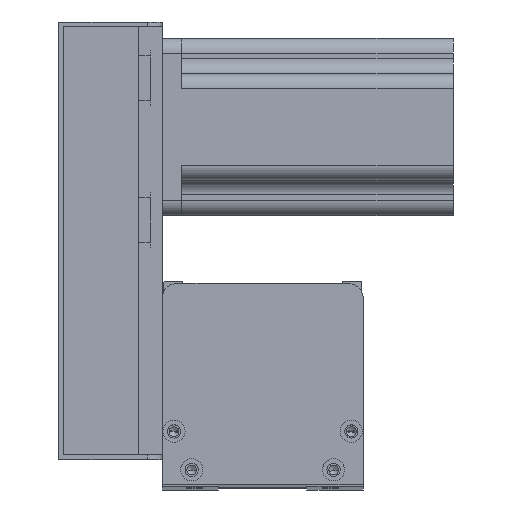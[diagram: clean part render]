
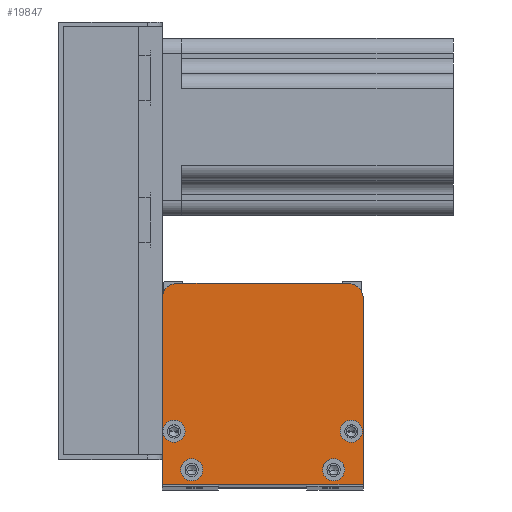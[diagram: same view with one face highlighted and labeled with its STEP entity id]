
A CAD part, top view. The second image highlights one B-rep face of the part: STEP entity #19847.
In plain terms, the highlighted planar face has unit normal (0, 0, 1) as drawn and (0, 0, -1) by its records, which use the part's own axes.
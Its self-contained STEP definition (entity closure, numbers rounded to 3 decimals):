
#62 = ORIENTED_EDGE ( 'NONE', *, *, #3388, .F. ) ;
#208 = ORIENTED_EDGE ( 'NONE', *, *, #15331, .F. ) ;
#217 = CIRCLE ( 'NONE', #10850, 3.75 ) ;
#410 = CARTESIAN_POINT ( 'NONE',  ( 0., 0., 0. ) ) ;
#429 = DIRECTION ( 'NONE',  ( 0., 0., -1. ) ) ;
#800 = VERTEX_POINT ( 'NONE', #21636 ) ;
#833 = EDGE_CURVE ( 'NONE', #24215, #12005, #1131, .T. ) ;
#1131 = CIRCLE ( 'NONE', #9570, 3.75 ) ;
#1440 = DIRECTION ( 'NONE',  ( -1., 0., 0. ) ) ;
#2325 = FACE_BOUND ( 'NONE', #18283, .T. ) ;
#2598 = EDGE_CURVE ( 'NONE', #26255, #5793, #27254, .T. ) ;
#2650 = EDGE_LOOP ( 'NONE', ( #16448, #6265 ) ) ;
#2705 = DIRECTION ( 'NONE',  ( -1., 0., 0. ) ) ;
#2707 = ORIENTED_EDGE ( 'NONE', *, *, #9697, .F. ) ;
#2963 = EDGE_LOOP ( 'NONE', ( #28408, #11183, #21049, #4540, #2707, #11327 ) ) ;
#3388 = EDGE_CURVE ( 'NONE', #24905, #13177, #28412, .T. ) ;
#3604 = AXIS2_PLACEMENT_3D ( 'NONE', #11593, #20509, #9555 ) ;
#3747 = CIRCLE ( 'NONE', #19323, 3.75 ) ;
#3903 = LINE ( 'NONE', #12443, #26714 ) ;
#3976 = CARTESIAN_POINT ( 'NONE',  ( 68., 0., 0. ) ) ;
#3993 = CARTESIAN_POINT ( 'NONE',  ( 58., 5., 0. ) ) ;
#4044 = FACE_OUTER_BOUND ( 'NONE', #2963, .T. ) ;
#4540 = ORIENTED_EDGE ( 'NONE', *, *, #15445, .T. ) ;
#4743 = FACE_BOUND ( 'NONE', #2650, .T. ) ;
#4879 = CARTESIAN_POINT ( 'NONE',  ( 5., 68., 0. ) ) ;
#5124 = VERTEX_POINT ( 'NONE', #17245 ) ;
#5569 = AXIS2_PLACEMENT_3D ( 'NONE', #11947, #16199, #16301 ) ;
#5732 = AXIS2_PLACEMENT_3D ( 'NONE', #22944, #25399, #16731 ) ;
#5793 = VERTEX_POINT ( 'NONE', #5836 ) ;
#5836 = CARTESIAN_POINT ( 'NONE',  ( 7.75, 18., 0. ) ) ;
#6265 = ORIENTED_EDGE ( 'NONE', *, *, #833, .F. ) ;
#6345 = CARTESIAN_POINT ( 'NONE',  ( 0.25, 18., 0. ) ) ;
#6387 = CARTESIAN_POINT ( 'NONE',  ( 68., 0., 0. ) ) ;
#6500 = DIRECTION ( 'NONE',  ( 0., -1., 0. ) ) ;
#7870 = AXIS2_PLACEMENT_3D ( 'NONE', #410, #17801, #26961 ) ;
#8396 = DIRECTION ( 'NONE',  ( 1., 0., 0. ) ) ;
#8713 = AXIS2_PLACEMENT_3D ( 'NONE', #3993, #23905, #19256 ) ;
#9555 = DIRECTION ( 'NONE',  ( 1., 0., 0. ) ) ;
#9570 = AXIS2_PLACEMENT_3D ( 'NONE', #28108, #17185, #12642 ) ;
#9695 = EDGE_CURVE ( 'NONE', #16384, #10270, #3903, .T. ) ;
#9697 = EDGE_CURVE ( 'NONE', #10635, #800, #16334, .T. ) ;
#9919 = EDGE_LOOP ( 'NONE', ( #12850, #22489 ) ) ;
#9930 = DIRECTION ( 'NONE',  ( 0., 0., -1. ) ) ;
#10104 = DIRECTION ( 'NONE',  ( -1., 0., 0. ) ) ;
#10254 = FACE_BOUND ( 'NONE', #9919, .T. ) ;
#10270 = VERTEX_POINT ( 'NONE', #4879 ) ;
#10440 = CARTESIAN_POINT ( 'NONE',  ( 13.75, 5., 0. ) ) ;
#10635 = VERTEX_POINT ( 'NONE', #3976 ) ;
#10850 = AXIS2_PLACEMENT_3D ( 'NONE', #23295, #9930, #27632 ) ;
#11183 = ORIENTED_EDGE ( 'NONE', *, *, #19413, .T. ) ;
#11221 = DIRECTION ( 'NONE',  ( 0., 0., -1. ) ) ;
#11327 = ORIENTED_EDGE ( 'NONE', *, *, #21308, .F. ) ;
#11593 = CARTESIAN_POINT ( 'NONE',  ( 5., 63., 0. ) ) ;
#11947 = CARTESIAN_POINT ( 'NONE',  ( 58., 5., 0. ) ) ;
#12005 = VERTEX_POINT ( 'NONE', #27448 ) ;
#12443 = CARTESIAN_POINT ( 'NONE',  ( 68., 68., 0. ) ) ;
#12642 = DIRECTION ( 'NONE',  ( -1., 0., 0. ) ) ;
#12844 = DIRECTION ( 'NONE',  ( 0., 0., -1. ) ) ;
#12850 = ORIENTED_EDGE ( 'NONE', *, *, #14280, .F. ) ;
#13089 = CARTESIAN_POINT ( 'NONE',  ( 61.75, 5., 0. ) ) ;
#13177 = VERTEX_POINT ( 'NONE', #14249 ) ;
#13578 = VECTOR ( 'NONE', #6500, 1000. ) ;
#13637 = PLANE ( 'NONE',  #7870 ) ;
#13892 = LINE ( 'NONE', #19436, #13578 ) ;
#14249 = CARTESIAN_POINT ( 'NONE',  ( 67.75, 18., 0. ) ) ;
#14280 = EDGE_CURVE ( 'NONE', #5124, #20771, #23987, .T. ) ;
#14332 = LINE ( 'NONE', #6387, #23327 ) ;
#14862 = ORIENTED_EDGE ( 'NONE', *, *, #20047, .F. ) ;
#15192 = EDGE_CURVE ( 'NONE', #20771, #5124, #25985, .T. ) ;
#15331 = EDGE_CURVE ( 'NONE', #5793, #26255, #19059, .T. ) ;
#15438 = CARTESIAN_POINT ( 'NONE',  ( 60.25, 18., 0. ) ) ;
#15445 = EDGE_CURVE ( 'NONE', #16384, #800, #28423, .T. ) ;
#15889 = DIRECTION ( 'NONE',  ( -1., 0., 0. ) ) ;
#15948 = CARTESIAN_POINT ( 'NONE',  ( 4., 18., 0. ) ) ;
#16199 = DIRECTION ( 'NONE',  ( 0., 0., -1. ) ) ;
#16255 = AXIS2_PLACEMENT_3D ( 'NONE', #15948, #11221, #2705 ) ;
#16301 = DIRECTION ( 'NONE',  ( -1., 0., 0. ) ) ;
#16334 = LINE ( 'NONE', #23370, #17368 ) ;
#16384 = VERTEX_POINT ( 'NONE', #23170 ) ;
#16448 = ORIENTED_EDGE ( 'NONE', *, *, #17863, .F. ) ;
#16731 = DIRECTION ( 'NONE',  ( -1., 0., 0. ) ) ;
#16879 = DIRECTION ( 'NONE',  ( 0., 1., 0. ) ) ;
#17185 = DIRECTION ( 'NONE',  ( 0., 0., -1. ) ) ;
#17233 = VERTEX_POINT ( 'NONE', #17943 ) ;
#17245 = CARTESIAN_POINT ( 'NONE',  ( 54.25, 5., 0. ) ) ;
#17368 = VECTOR ( 'NONE', #16879, 1000. ) ;
#17379 = CARTESIAN_POINT ( 'NONE',  ( 63., 63., 0. ) ) ;
#17617 = EDGE_LOOP ( 'NONE', ( #18743, #208 ) ) ;
#17801 = DIRECTION ( 'NONE',  ( 0., 0., 1. ) ) ;
#17863 = EDGE_CURVE ( 'NONE', #12005, #24215, #3747, .T. ) ;
#17943 = CARTESIAN_POINT ( 'NONE',  ( 0., 0., 0. ) ) ;
#18283 = EDGE_LOOP ( 'NONE', ( #62, #14862 ) ) ;
#18440 = VERTEX_POINT ( 'NONE', #18590 ) ;
#18590 = CARTESIAN_POINT ( 'NONE',  ( 0., 63., 0. ) ) ;
#18743 = ORIENTED_EDGE ( 'NONE', *, *, #2598, .F. ) ;
#19059 = CIRCLE ( 'NONE', #23902, 3.75 ) ;
#19102 = DIRECTION ( 'NONE',  ( 0., 0., -1. ) ) ;
#19256 = DIRECTION ( 'NONE',  ( -1., 0., 0. ) ) ;
#19323 = AXIS2_PLACEMENT_3D ( 'NONE', #26989, #429, #15889 ) ;
#19413 = EDGE_CURVE ( 'NONE', #18440, #10270, #19937, .T. ) ;
#19436 = CARTESIAN_POINT ( 'NONE',  ( 0., 0., 0. ) ) ;
#19847 = ADVANCED_FACE ( 'NONE', ( #2325, #20291, #4743, #10254, #4044 ), #13637, .F. ) ;
#19937 = CIRCLE ( 'NONE', #3604, 5. ) ;
#20047 = EDGE_CURVE ( 'NONE', #13177, #24905, #217, .T. ) ;
#20291 = FACE_BOUND ( 'NONE', #17617, .T. ) ;
#20509 = DIRECTION ( 'NONE',  ( 0., 0., -1. ) ) ;
#20771 = VERTEX_POINT ( 'NONE', #13089 ) ;
#21049 = ORIENTED_EDGE ( 'NONE', *, *, #9695, .F. ) ;
#21154 = AXIS2_PLACEMENT_3D ( 'NONE', #17379, #12844, #23657 ) ;
#21308 = EDGE_CURVE ( 'NONE', #17233, #10635, #14332, .T. ) ;
#21636 = CARTESIAN_POINT ( 'NONE',  ( 68., 63., 0. ) ) ;
#22489 = ORIENTED_EDGE ( 'NONE', *, *, #15192, .F. ) ;
#22944 = CARTESIAN_POINT ( 'NONE',  ( 64., 18., 0. ) ) ;
#23170 = CARTESIAN_POINT ( 'NONE',  ( 63., 68., 0. ) ) ;
#23221 = EDGE_CURVE ( 'NONE', #18440, #17233, #13892, .T. ) ;
#23295 = CARTESIAN_POINT ( 'NONE',  ( 64., 18., 0. ) ) ;
#23327 = VECTOR ( 'NONE', #8396, 1000. ) ;
#23370 = CARTESIAN_POINT ( 'NONE',  ( 68., 0., 0. ) ) ;
#23657 = DIRECTION ( 'NONE',  ( 1., 0., 0. ) ) ;
#23902 = AXIS2_PLACEMENT_3D ( 'NONE', #27995, #19102, #10104 ) ;
#23905 = DIRECTION ( 'NONE',  ( 0., 0., -1. ) ) ;
#23987 = CIRCLE ( 'NONE', #8713, 3.75 ) ;
#24215 = VERTEX_POINT ( 'NONE', #10440 ) ;
#24905 = VERTEX_POINT ( 'NONE', #15438 ) ;
#25399 = DIRECTION ( 'NONE',  ( 0., 0., -1. ) ) ;
#25985 = CIRCLE ( 'NONE', #5569, 3.75 ) ;
#26255 = VERTEX_POINT ( 'NONE', #6345 ) ;
#26714 = VECTOR ( 'NONE', #1440, 1000. ) ;
#26961 = DIRECTION ( 'NONE',  ( 1., 0., 0. ) ) ;
#26989 = CARTESIAN_POINT ( 'NONE',  ( 10., 5., 0. ) ) ;
#27254 = CIRCLE ( 'NONE', #16255, 3.75 ) ;
#27448 = CARTESIAN_POINT ( 'NONE',  ( 6.25, 5., 0. ) ) ;
#27632 = DIRECTION ( 'NONE',  ( -1., 0., 0. ) ) ;
#27995 = CARTESIAN_POINT ( 'NONE',  ( 4., 18., 0. ) ) ;
#28108 = CARTESIAN_POINT ( 'NONE',  ( 10., 5., 0. ) ) ;
#28408 = ORIENTED_EDGE ( 'NONE', *, *, #23221, .F. ) ;
#28412 = CIRCLE ( 'NONE', #5732, 3.75 ) ;
#28423 = CIRCLE ( 'NONE', #21154, 5. ) ;
